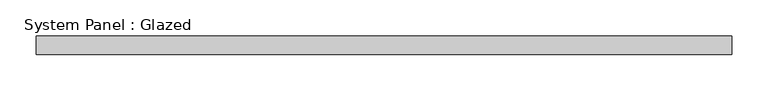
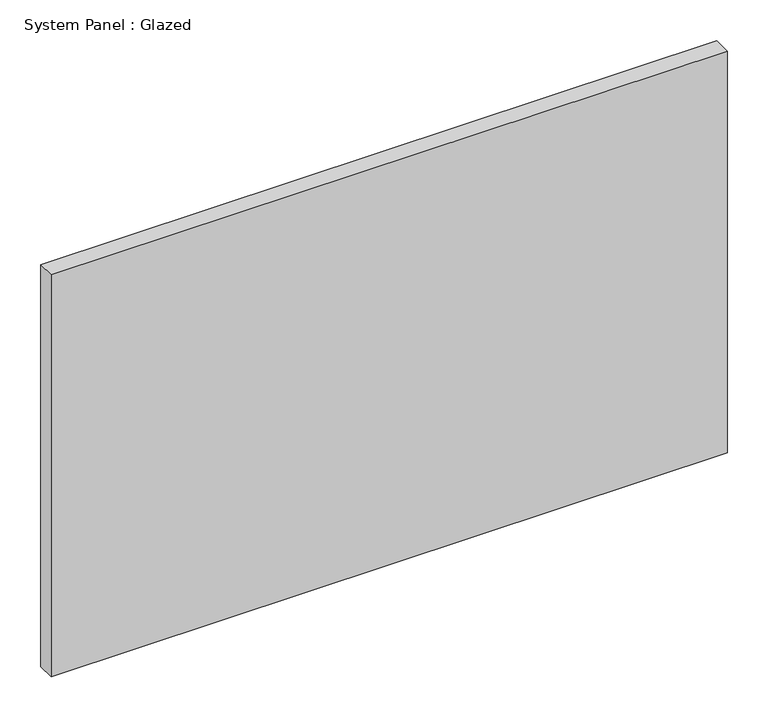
"""IFC4 building model written with IfcOpenShell, lengths in millimetres: plate geometry, System Panel : Glazed."""

import ifcopenshell
import ifcopenshell.guid

model = None  # the IFC model being written
_history = None  # IfcOwnerHistory: only IFC2X3 demands one
_inside = {}  # id of a spatial element -> (the spatial element, [elements in it])
_under = {}  # id of a project, library or spatial element -> (it, [spatial elements below it])
_declared = {}  # id of a project -> (the project, [libraries it declares])
_typed = {}  # id of a type object -> (the type object, [elements of that type])
_made_of = {}  # id of a material, layer set ... -> (it, [elements and type objects made of it])


def new_model(schema):
    """Start an empty IFC model of exactly this schema.

    Asked for "IFC4X3", IfcOpenShell would pick the latest addendum, in which some entities
    have other attributes; the version numbers below select the first issue.
    IFC2X3 requires an IfcOwnerHistory on every rooted entity: one is made here for all.
    """
    global model, _history
    if schema == "IFC4X3":
        model = ifcopenshell.file(schema_version=(4, 3, 0, 0))
    else:
        model = ifcopenshell.file(schema=schema)
    _inside.clear()
    _under.clear()
    _declared.clear()
    _typed.clear()
    _made_of.clear()
    _history = None
    if model.schema == "IFC2X3":
        org = make("IfcOrganization", Name="unknown")
        user = make(
            "IfcPersonAndOrganization",
            ThePerson=make("IfcPerson", FamilyName="unknown"),
            TheOrganization=org,
        )
        app = make(
            "IfcApplication",
            ApplicationDeveloper=org,
            Version="unknown",
            ApplicationFullName="unknown",
            ApplicationIdentifier="unknown",
        )
        _history = make(
            "IfcOwnerHistory",
            OwningUser=user,
            OwningApplication=app,
            ChangeAction="ADDED",
            CreationDate=0,
        )
    return model


def make(cls, **values):
    """One entity of the class cls with the attributes given. An attribute that is None is left unset."""
    return model.create_entity(
        cls, **{name: value for name, value in values.items() if value is not None}
    )


def rooted(cls, **values):
    """An entity with a GlobalId (a new one), such as an element, a storey or a relation."""
    return make(cls, GlobalId=ifcopenshell.guid.new(), OwnerHistory=_history, **values)


def si_unit(unit_type, name, prefix=None):
    """IfcSIUnit, for example si_unit("LENGTHUNIT", "METRE", prefix="MILLI")."""
    return make("IfcSIUnit", UnitType=unit_type, Prefix=prefix, Name=name)


def assignment(units):
    """IfcUnitAssignment: the units of a project."""
    return None if units is None else make("IfcUnitAssignment", Units=units)


def point(xyz):
    """IfcCartesianPoint."""
    return None if xyz is None else make("IfcCartesianPoint", Coordinates=xyz)


def direction(xyz):
    """IfcDirection."""
    return None if xyz is None else make("IfcDirection", DirectionRatios=xyz)


def frame(location, z_axis=None, x_axis=None):
    """IfcAxis2Placement3D, a coordinate frame: its origin and axes. An axis left out is left unset."""
    return make(
        "IfcAxis2Placement3D",
        Location=point(location),
        Axis=direction(z_axis),
        RefDirection=direction(x_axis),
    )


def origin():
    """The frame at (0, 0, 0) with its axes left unset."""
    return frame((0.0, 0.0, 0.0))


def origin_with_axes():
    """The frame at (0, 0, 0) with the z axis (0, 0, 1) and the x axis (1, 0, 0) written out."""
    return frame((0.0, 0.0, 0.0), z_axis=(0.0, 0.0, 1.0), x_axis=(1.0, 0.0, 0.0))


def place(relative_to, where):
    """IfcLocalPlacement: puts the frame where relative to a parent placement (None: the world)."""
    return make(
        "IfcLocalPlacement", PlacementRelTo=relative_to, RelativePlacement=where
    )


def context(
    kind, dimensions, precision=None, world=None, true_north=None, identifier=None
):
    """IfcGeometricRepresentationContext, for example the 3D "Model" context."""
    return make(
        "IfcGeometricRepresentationContext",
        ContextIdentifier=identifier,
        ContextType=kind,
        CoordinateSpaceDimension=dimensions,
        Precision=precision,
        WorldCoordinateSystem=world,
        TrueNorth=true_north,
    )


def project(units=None, contexts=None):
    """IfcProject with its units and contexts."""
    return rooted(
        "IfcProject",
        Name="project",
        RepresentationContexts=contexts,
        UnitsInContext=assignment(units),
    )


def spatial(cls, under=None, at=None, **own):
    """A site, building, storey or space (cls), placed at a placement, below another one or the project."""
    s = rooted(cls, ObjectPlacement=at, **own)
    if under is not None:
        _under.setdefault(under.id(), (under, []))[1].append(s)
    return s


def polyline(points):
    """IfcPolyline through the points."""
    return make("IfcPolyline", Points=[point(p) for p in points])


def outline(outer, holes=None, kind="AREA"):
    """IfcArbitraryClosedProfileDef: a profile drawn as a closed curve; with holes, ...WithVoids."""
    if holes is None:
        return make("IfcArbitraryClosedProfileDef", ProfileType=kind, OuterCurve=outer)
    return make(
        "IfcArbitraryProfileDefWithVoids",
        ProfileType=kind,
        OuterCurve=outer,
        InnerCurves=holes,
    )


def extrude(swept, where, along, depth):
    """IfcExtrudedAreaSolid: the profile swept, set in the frame where, extruded along a direction by depth."""
    return make(
        "IfcExtrudedAreaSolid",
        SweptArea=swept,
        Position=where,
        ExtrudedDirection=direction(along),
        Depth=depth,
    )


def shape(context_of_items, identifier, shape_type, items):
    """IfcShapeRepresentation: the items that make up one representation, for example the "Body"."""
    return make(
        "IfcShapeRepresentation",
        ContextOfItems=context_of_items,
        RepresentationIdentifier=identifier,
        RepresentationType=shape_type,
        Items=items,
    )


def source(mapping_origin, context_of_items, identifier, shape_type, items):
    """IfcRepresentationMap: a shape defined once, which mapped items show again and again."""
    return make(
        "IfcRepresentationMap",
        MappingOrigin=mapping_origin,
        MappedRepresentation=shape(context_of_items, identifier, shape_type, items),
    )


def transform(
    local_origin,
    x_axis=None,
    y_axis=None,
    z_axis=None,
    scale=None,
    scale2=None,
    scale3=None,
    uniform=True,
):
    """IfcCartesianTransformationOperator3D, or its non-uniform kind. x_axis, y_axis, z_axis: its Axis1, 2, 3."""
    if uniform:
        return make(
            "IfcCartesianTransformationOperator3D",
            Axis1=direction(x_axis),
            Axis2=direction(y_axis),
            LocalOrigin=point(local_origin),
            Scale=scale,
            Axis3=direction(z_axis),
        )
    return make(
        "IfcCartesianTransformationOperator3DnonUniform",
        Axis1=direction(x_axis),
        Axis2=direction(y_axis),
        LocalOrigin=point(local_origin),
        Scale=scale,
        Axis3=direction(z_axis),
        Scale2=scale2,
        Scale3=scale3,
    )


def mapped(mapping_source, mapping_target):
    """IfcMappedItem: shows the shape of a source again, moved by a transform."""
    return make(
        "IfcMappedItem", MappingSource=mapping_source, MappingTarget=mapping_target
    )


def made_of(thing, what):
    """Note that an element or type object is made of a material, layer set ...; save() writes the relation."""
    if what is not None:
        _made_of.setdefault(what.id(), (what, []))[1].append(thing)
    return thing


def element(
    cls,
    number,
    at=None,
    inside=None,
    cuts=None,
    type_object=None,
    material=None,
    context=None,
    identifier="Body",
    shape_type=None,
    held_by="IfcProductDefinitionShape",
    body=None,
    shapes=None,
    **own,
):
    """One element of the class cls, such as IfcWall. Its Tag is "e" and its number.

    at: its placement. inside: the storey or other place that contains it. cuts: it is an
    opening in that element (IfcRelVoidsElement). A single representation is given by context,
    identifier, shape_type and body (its items); several are given by shapes. held_by: the class
    of the entity that holds the representations. save() writes the other relations.
    """
    e = rooted(cls, Tag="e%d" % number, ObjectPlacement=at, **own)
    if body is not None:
        shapes = [shape(context, identifier, shape_type, body)]
    if shapes is not None:
        e.Representation = make(held_by, Representations=shapes)
    if inside is not None:
        _inside.setdefault(inside.id(), (inside, []))[1].append(e)
    if cuts is not None:
        rooted(
            "IfcRelVoidsElement", RelatingBuildingElement=cuts, RelatedOpeningElement=e
        )
    if type_object is not None:
        _typed.setdefault(type_object.id(), (type_object, []))[1].append(e)
    return made_of(e, material)


def aggregate(whole, parts):
    """IfcRelAggregates: a whole, such as a stair, and the parts it consists of."""
    return rooted("IfcRelAggregates", RelatingObject=whole, RelatedObjects=parts)


def save(model, path):
    """Write the relations noted so far, then the file.

    IfcRelAggregates (storeys below a building ...), IfcRelContainedInSpatialStructure (elements
    in a storey), IfcRelDefinesByType, IfcRelAssociatesMaterial and IfcRelDeclares: one each for
    every whole, place, type object, material and project.
    """
    for whole, parts in _under.values():
        aggregate(whole, parts)
    for where, things in _inside.values():
        rooted(
            "IfcRelContainedInSpatialStructure",
            RelatedElements=things,
            RelatingStructure=where,
        )
    for kind, things in _typed.values():
        rooted("IfcRelDefinesByType", RelatedObjects=things, RelatingType=kind)
    for what, things in _made_of.values():
        rooted("IfcRelAssociatesMaterial", RelatedObjects=things, RelatingMaterial=what)
    for by, libraries in _declared.values():
        rooted("IfcRelDeclares", RelatingContext=by, RelatedDefinitions=libraries)
    model.write(path)


def system_panel_glazed_f87e748d(model_context):
    return source(origin(), model_context, "Body", "SweptSolid", [
        extrude(outline(polyline([(477.4359697, -72.5), (-477.4359697, -72.5), (-477.4359697, -47.5), (477.4359697, -47.5), (477.4359697, -72.5)])), origin_with_axes(), (0.0, 0.0, 1.0), 600.0),
    ])


if __name__ == "__main__":
    model = new_model("IFC4")
    model_context = context("Model", 3, world=origin())
    ifc_project = project(units=[si_unit("LENGTHUNIT", "METRE", prefix="MILLI")], contexts=[model_context])
    site = spatial("IfcSite", under=ifc_project)
    building = spatial("IfcBuilding", under=site)
    placement = place(None, origin())
    system_panel_glazed_shape = system_panel_glazed_f87e748d(model_context)
    element("IfcPlate", 1, ObjectType="System Panel : Glazed", at=placement, inside=building, context=model_context, shape_type="MappedRepresentation", body=[
        mapped(system_panel_glazed_shape, transform((0.0, 0.0, 0.0), x_axis=(1.0, 0.0, 0.0), y_axis=(0.0, 1.0, 0.0), z_axis=(0.0, 0.0, 1.0))),
    ])
    save(model, "model.ifc")
